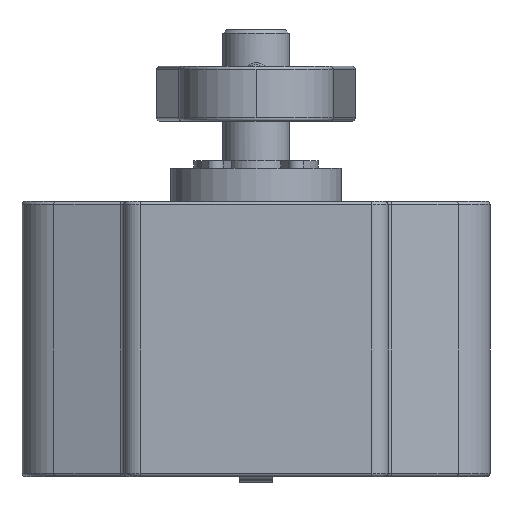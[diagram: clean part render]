
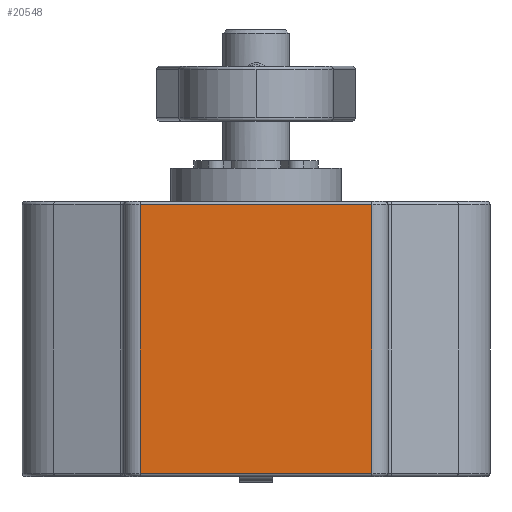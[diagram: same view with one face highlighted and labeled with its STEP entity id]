
A CAD part, front view. The second image highlights one B-rep face of the part: STEP entity #20548.
In plain terms, the highlighted planar face has unit normal (0, -1, 0).
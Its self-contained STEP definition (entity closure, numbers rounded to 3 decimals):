
#138 = EDGE_CURVE ( 'NONE', #20920, #20688, #12999, .T. ) ;
#1524 = VECTOR ( 'NONE', #11919, 1000. ) ;
#1949 = CARTESIAN_POINT ( 'NONE',  ( -12., -13., -28. ) ) ;
#2647 = AXIS2_PLACEMENT_3D ( 'NONE', #1949, #26823, #6032 ) ;
#2864 = VECTOR ( 'NONE', #19135, 1000. ) ;
#2940 = EDGE_LOOP ( 'NONE', ( #15608, #20851, #9369, #12341 ) ) ;
#4455 = CARTESIAN_POINT ( 'NONE',  ( 10.5, -13., -28. ) ) ;
#4584 = EDGE_CURVE ( 'NONE', #20688, #6091, #12726, .T. ) ;
#5098 = VECTOR ( 'NONE', #12988, 1000. ) ;
#6032 = DIRECTION ( 'NONE',  ( 0., 0., -1. ) ) ;
#6091 = VERTEX_POINT ( 'NONE', #23283 ) ;
#9369 = ORIENTED_EDGE ( 'NONE', *, *, #14173, .T. ) ;
#9750 = DIRECTION ( 'NONE',  ( 0., 0., -1. ) ) ;
#10137 = VECTOR ( 'NONE', #9750, 1000. ) ;
#11319 = VERTEX_POINT ( 'NONE', #12328 ) ;
#11919 = DIRECTION ( 'NONE',  ( 1., 0., 0. ) ) ;
#12328 = CARTESIAN_POINT ( 'NONE',  ( -10.5, -13., -27.7 ) ) ;
#12341 = ORIENTED_EDGE ( 'NONE', *, *, #16052, .T. ) ;
#12726 = LINE ( 'NONE', #19000, #5098 ) ;
#12765 = CARTESIAN_POINT ( 'NONE',  ( 10.5, -13., -27.7 ) ) ;
#12988 = DIRECTION ( 'NONE',  ( -1., 0., 0. ) ) ;
#12999 = LINE ( 'NONE', #4455, #2864 ) ;
#13682 = PLANE ( 'NONE',  #2647 ) ;
#14173 = EDGE_CURVE ( 'NONE', #6091, #11319, #20237, .T. ) ;
#15608 = ORIENTED_EDGE ( 'NONE', *, *, #138, .T. ) ;
#16052 = EDGE_CURVE ( 'NONE', #11319, #20920, #23227, .T. ) ;
#19000 = CARTESIAN_POINT ( 'NONE',  ( -10.5, -13., -3.3 ) ) ;
#19135 = DIRECTION ( 'NONE',  ( 0., 0., 1. ) ) ;
#20237 = LINE ( 'NONE', #26604, #10137 ) ;
#20548 = ADVANCED_FACE ( 'NONE', ( #24654 ), #13682, .T. ) ;
#20688 = VERTEX_POINT ( 'NONE', #23829 ) ;
#20851 = ORIENTED_EDGE ( 'NONE', *, *, #4584, .T. ) ;
#20920 = VERTEX_POINT ( 'NONE', #12765 ) ;
#23227 = LINE ( 'NONE', #25394, #1524 ) ;
#23283 = CARTESIAN_POINT ( 'NONE',  ( -10.5, -13., -3.3 ) ) ;
#23829 = CARTESIAN_POINT ( 'NONE',  ( 10.5, -13., -3.3 ) ) ;
#24654 = FACE_OUTER_BOUND ( 'NONE', #2940, .T. ) ;
#25394 = CARTESIAN_POINT ( 'NONE',  ( 10.5, -13., -27.7 ) ) ;
#26604 = CARTESIAN_POINT ( 'NONE',  ( -10.5, -13., -28. ) ) ;
#26823 = DIRECTION ( 'NONE',  ( 0., -1., 0. ) ) ;
